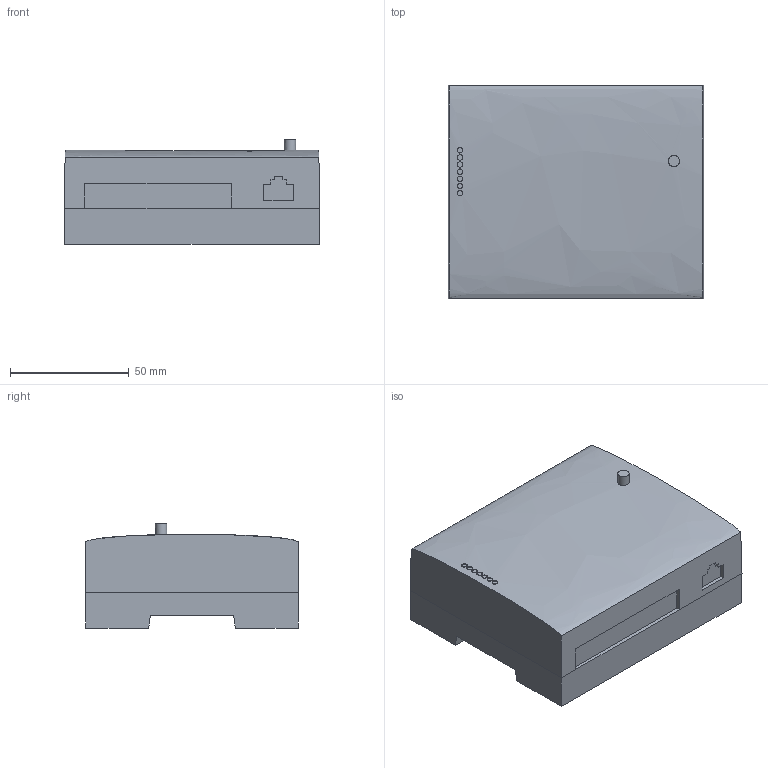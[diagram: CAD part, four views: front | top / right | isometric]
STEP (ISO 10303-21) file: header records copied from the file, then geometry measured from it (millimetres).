
FILE_DESCRIPTION(('STEP AP242 Edition 2','STEP AP242 Edition 2''CAx-IF Rec.Pracs.---Representation and Presentation of Product Manufacturing Information (PMI)---4.0---2014-10-13','STEP AP242 Edition 2''CAx-IF Rec.Pracs.---Representation and Presentation of Product Manufacturing Information (PMI)---4.0---2014-10-13''CAx-IF Rec.Pracs.---3D Tessellated Geometry---0.4---2014-09-14','STEP AP242 Edition 2''CAx-IF Rec.Pracs.---Representation and Presentation of Product Manufacturing Information (PMI)---4.0---2014-10-13''CAx-IF Rec.Pracs.---3D Tessellated Geometry---0.4---2014-09-14''2;1','STEP AP242 Edition 2''CAx-IF Rec.Pracs.---Representation and Presentation of Product Manufacturing Information (PMI)---4.0---2014-10-13''CAx-IF Rec.Pracs.---3D Tessellated Geometry---0.4---2014-09-14''2;1''CAx-IF Rec.Pracs.---User Defined Attributes---1.5---2016-08-15'),'2;1');
FILE_NAME('/vol/tmp/translate-11377396009239432736/DIN_abs.step','2026-03-24T16:12:59',(''),(''),'ST-DEVELOPER v20','ONSHAPE BY PTC INC, 1.212',' ');
FILE_SCHEMA(('AP242_MANAGED_MODEL_BASED_3D_ENGINEERING_MIM_LF { 1 0 10303 442 3 1 4 }'));
Length unit declared in the file: metre
Products named in the file (1): XPC
Bounding box: 107.5 x 90 x 43.84 mm (x, y, z)
Volume: 350476.4 mm3; surface area: 35053.2 mm2
Topology: 1 solids, 1 shells, 58 faces, 136 edges, 89 vertices
Faces by surface type: plane 42, cylinder 15, bspline 1
Full cylindrical faces by diameter (mm): 2.3 x7, 4.8 x1
Entity records: 1752 total; most frequent: CARTESIAN_POINT 497, ORIENTED_EDGE 246, DIRECTION 223, EDGE_CURVE 123, LINE 105, VECTOR 105, VERTEX_POINT 84, EDGE_LOOP 75
